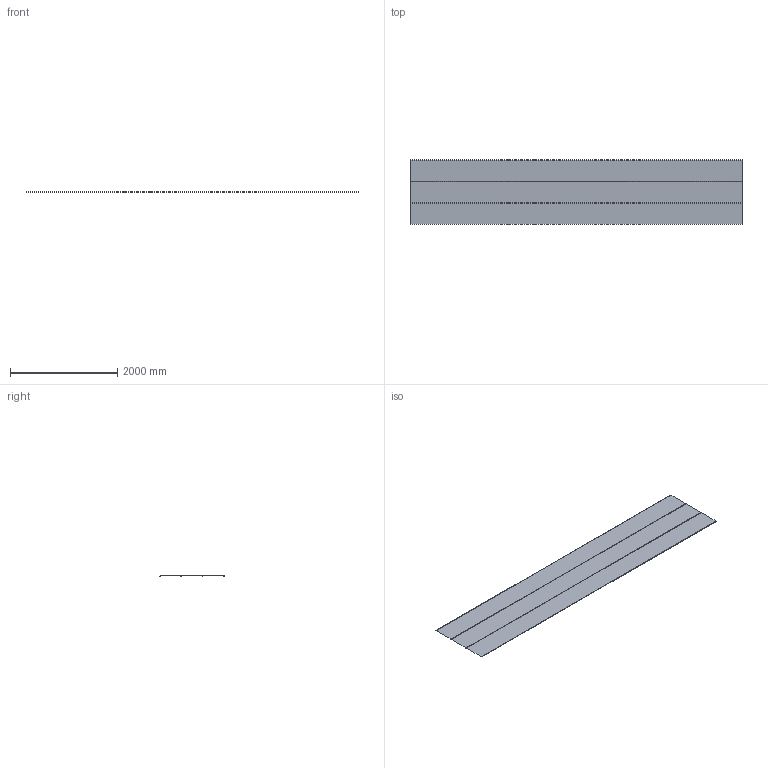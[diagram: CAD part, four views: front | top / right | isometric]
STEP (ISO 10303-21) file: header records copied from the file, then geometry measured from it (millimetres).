
FILE_DESCRIPTION(/* description */ (''),/* implementation_level */ '2;1');
FILE_NAME(/* name */ 'PREFA_~2',/* time_stamp */ '2020-07-21T15:27:32+02:00',/* author */ (''),/* organization */ (''),/* preprocessor_version */ 'ST-DEVELOPER v15',/* originating_system */ '',/* authorisation */ '');
FILE_SCHEMA (('AUTOMOTIVE_DESIGN'));
Length unit declared in the file: millimetre
Products named in the file (1): Document
Bounding box: 6200 x 1208.6 x 6.5 mm (x, y, z)
Surface area: 7942089.9 mm2 (no closed solid volume)
Topology: 0 solids, 3 shells, 27 faces, 84 edges, 60 vertices
Faces by surface type: plane 15, bspline 12
Entity records: 798 total; most frequent: CARTESIAN_POINT 341, ORIENTED_EDGE 108, EDGE_CURVE 84, VERTEX_POINT 60, B_SPLINE_CURVE_WITH_KNOTS 48, ADVANCED_FACE 27, FACE_OUTER_BOUND 27, EDGE_LOOP 27
